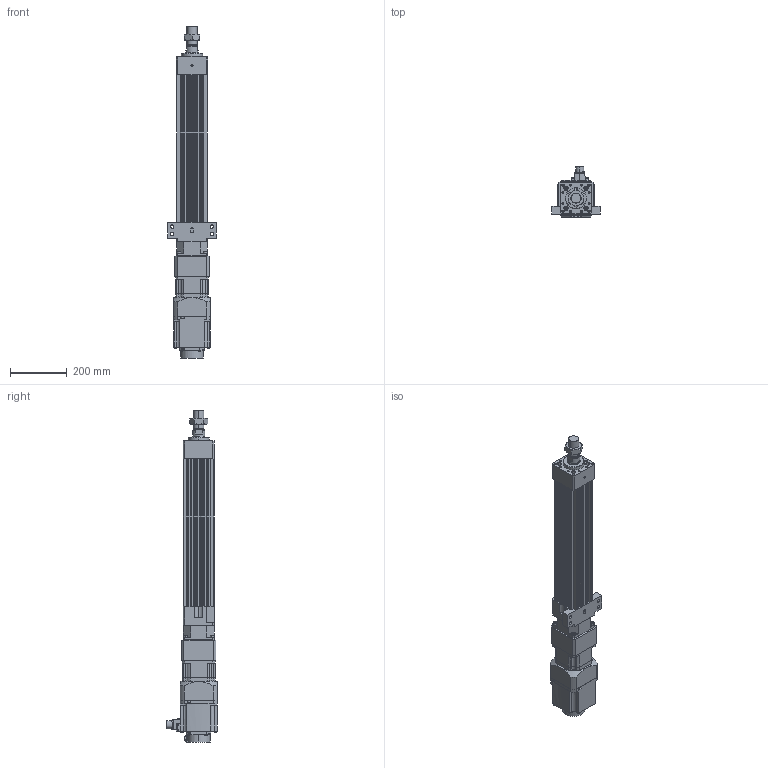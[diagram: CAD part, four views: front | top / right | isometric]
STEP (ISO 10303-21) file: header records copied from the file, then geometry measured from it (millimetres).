
FILE_DESCRIPTION (( 'STEP AP203' ), '1' );
FILE_NAME ('HES110NS(HS)-S350-W015G00-M-FFC.STEP', '2023-01-28T04:56:20', ( 'tms' ), ( '' ), 'SwSTEP 2.0', 'SolidWorks 2013', '' );
FILE_SCHEMA (( 'CONFIG_CONTROL_DESIGN' ));
Length unit declared in the file: millimetre
Products named in the file (8): AB1151; P0401400706; HES110NS(HS)-S350-W015G00-M-FFC; HG-SR152; HES110-S350-G120-FFC; HES110 ROD M ST350; AB115-003[HG-SR152]; M36X1.5P
Assembly tree (7 placements, depth 3):
  HES110NS(HS)-S350-W015G00-M-FFC
    HES110-S350-G120-FFC
    HES110 ROD M ST350
    M36X1.5P
    AB115-003[HG-SR152]
      AB1151
      P0401400706
    HG-SR152
Bounding box: 170 x 177.49 x 1171.5 mm (x, y, z)
Volume: 7544417 mm3; surface area: 1045727 mm2
Topology: 4 solids, 15 shells, 1222 faces, 3083 edges, 1988 vertices
Faces by surface type: plane 557, cylinder 549, cone 104, bspline 8, torus 4
Entity records: 38313 total; most frequent: CARTESIAN_POINT 7246, DIRECTION 6648, ORIENTED_EDGE 6070, EDGE_CURVE 3045, AXIS2_PLACEMENT_3D 2450, VERTEX_POINT 1988, VECTOR 1748, LINE 1748
